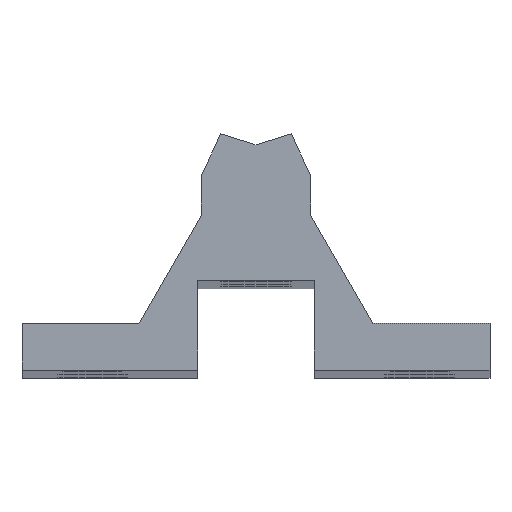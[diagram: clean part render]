
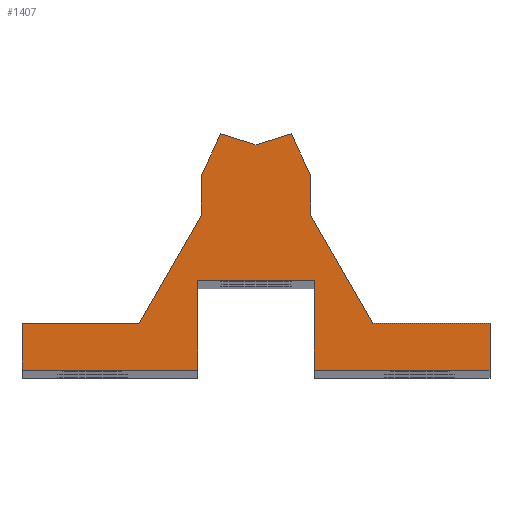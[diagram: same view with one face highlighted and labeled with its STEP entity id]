
A CAD part, top view. The second image highlights one B-rep face of the part: STEP entity #1407.
In plain terms, the highlighted planar face has unit normal (0, 0, 1).
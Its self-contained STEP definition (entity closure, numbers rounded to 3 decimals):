
#36 = CARTESIAN_POINT ( 'NONE',  ( -7.5, 8.5, 299.75 ) ) ;
#43 = EDGE_CURVE ( 'NONE', #462, #420, #1198, .T. ) ;
#69 = CARTESIAN_POINT ( 'NONE',  ( 7., 21.977, 299.75 ) ) ;
#84 = LINE ( 'NONE', #826, #1183 ) ;
#87 = FACE_OUTER_BOUND ( 'NONE', #582, .T. ) ;
#92 = VECTOR ( 'NONE', #1581, 1000. ) ;
#126 = VECTOR ( 'NONE', #1350, 1000. ) ;
#129 = ORIENTED_EDGE ( 'NONE', *, *, #262, .T. ) ;
#133 = VERTEX_POINT ( 'NONE', #539 ) ;
#151 = VECTOR ( 'NONE', #580, 1000. ) ;
#154 = LINE ( 'NONE', #727, #151 ) ;
#155 = VECTOR ( 'NONE', #1534, 1000. ) ;
#160 = CARTESIAN_POINT ( 'NONE',  ( 7.5, -3., 299.75 ) ) ;
#172 = EDGE_CURVE ( 'NONE', #462, #1536, #665, .T. ) ;
#180 = VECTOR ( 'NONE', #1587, 1000. ) ;
#218 = DIRECTION ( 'NONE',  ( 0., 0., 1. ) ) ;
#229 = CARTESIAN_POINT ( 'NONE',  ( -30., 3., 299.75 ) ) ;
#236 = VERTEX_POINT ( 'NONE', #1166 ) ;
#247 = EDGE_CURVE ( 'NONE', #420, #1771, #1759, .T. ) ;
#255 = DIRECTION ( 'NONE',  ( -0.423, -0.906, 0. ) ) ;
#262 = EDGE_CURVE ( 'NONE', #1771, #973, #1748, .T. ) ;
#263 = CARTESIAN_POINT ( 'NONE',  ( 30., 3., 299.75 ) ) ;
#318 = CARTESIAN_POINT ( 'NONE',  ( -30., 3., 299.75 ) ) ;
#324 = EDGE_CURVE ( 'NONE', #352, #236, #154, .T. ) ;
#334 = VECTOR ( 'NONE', #1803, 1000. ) ;
#349 = ORIENTED_EDGE ( 'NONE', *, *, #430, .T. ) ;
#352 = VERTEX_POINT ( 'NONE', #1799 ) ;
#356 = ORIENTED_EDGE ( 'NONE', *, *, #1766, .T. ) ;
#404 = VERTEX_POINT ( 'NONE', #479 ) ;
#415 = CARTESIAN_POINT ( 'NONE',  ( -7.5, 8.5, 299.75 ) ) ;
#420 = VERTEX_POINT ( 'NONE', #630 ) ;
#422 = LINE ( 'NONE', #415, #92 ) ;
#430 = EDGE_CURVE ( 'NONE', #1585, #1272, #1212, .T. ) ;
#442 = VERTEX_POINT ( 'NONE', #1048 ) ;
#462 = VERTEX_POINT ( 'NONE', #160 ) ;
#467 = LINE ( 'NONE', #69, #1060 ) ;
#479 = CARTESIAN_POINT ( 'NONE',  ( -4.511, 27.316, 299.75 ) ) ;
#483 = PLANE ( 'NONE',  #1089 ) ;
#497 = LINE ( 'NONE', #1785, #1455 ) ;
#501 = ORIENTED_EDGE ( 'NONE', *, *, #1653, .F. ) ;
#510 = CARTESIAN_POINT ( 'NONE',  ( -7., 21.977, 299.75 ) ) ;
#539 = CARTESIAN_POINT ( 'NONE',  ( 7., 16.856, 299.75 ) ) ;
#557 = EDGE_CURVE ( 'NONE', #1590, #404, #856, .T. ) ;
#580 = DIRECTION ( 'NONE',  ( -0.423, 0.906, 0. ) ) ;
#582 = EDGE_LOOP ( 'NONE', ( #1205, #731, #1136, #129, #651, #1450, #1552, #356, #1389, #926, #1006, #1822, #349, #1683, #799, #1165, #501 ) ) ;
#595 = VECTOR ( 'NONE', #1859, 1000. ) ;
#605 = VERTEX_POINT ( 'NONE', #36 ) ;
#612 = LINE ( 'NONE', #782, #126 ) ;
#621 = CARTESIAN_POINT ( 'NONE',  ( 0., 25.893, 299.75 ) ) ;
#630 = CARTESIAN_POINT ( 'NONE',  ( 30., -3., 299.75 ) ) ;
#634 = CARTESIAN_POINT ( 'NONE',  ( -7., 16.856, 299.75 ) ) ;
#639 = CARTESIAN_POINT ( 'NONE',  ( -30., -3., 299.75 ) ) ;
#643 = EDGE_CURVE ( 'NONE', #1306, #1585, #1504, .T. ) ;
#651 = ORIENTED_EDGE ( 'NONE', *, *, #1712, .T. ) ;
#665 = LINE ( 'NONE', #1123, #595 ) ;
#701 = DIRECTION ( 'NONE',  ( 0., 1., 0. ) ) ;
#727 = CARTESIAN_POINT ( 'NONE',  ( 4.5, 27.338, 299.75 ) ) ;
#731 = ORIENTED_EDGE ( 'NONE', *, *, #43, .T. ) ;
#756 = VECTOR ( 'NONE', #1092, 1000. ) ;
#782 = CARTESIAN_POINT ( 'NONE',  ( -7.5, 8.5, 299.75 ) ) ;
#786 = DIRECTION ( 'NONE',  ( 1., 0., 0. ) ) ;
#787 = VECTOR ( 'NONE', #1641, 1000. ) ;
#799 = ORIENTED_EDGE ( 'NONE', *, *, #1607, .T. ) ;
#826 = CARTESIAN_POINT ( 'NONE',  ( -7., 21.977, 299.75 ) ) ;
#851 = CARTESIAN_POINT ( 'NONE',  ( 30., 3., 299.75 ) ) ;
#856 = LINE ( 'NONE', #885, #1086 ) ;
#881 = VERTEX_POINT ( 'NONE', #1715 ) ;
#885 = CARTESIAN_POINT ( 'NONE',  ( 0., 25.893, 299.75 ) ) ;
#926 = ORIENTED_EDGE ( 'NONE', *, *, #1786, .T. ) ;
#930 = VECTOR ( 'NONE', #1238, 1000. ) ;
#973 = VERTEX_POINT ( 'NONE', #1811 ) ;
#1006 = ORIENTED_EDGE ( 'NONE', *, *, #1442, .T. ) ;
#1047 = DIRECTION ( 'NONE',  ( 0., 1., 0. ) ) ;
#1048 = CARTESIAN_POINT ( 'NONE',  ( -30., -3., 299.75 ) ) ;
#1057 = LINE ( 'NONE', #1618, #787 ) ;
#1060 = VECTOR ( 'NONE', #1047, 1000. ) ;
#1086 = VECTOR ( 'NONE', #1598, 1000. ) ;
#1089 = AXIS2_PLACEMENT_3D ( 'NONE', #1522, #218, #786 ) ;
#1092 = DIRECTION ( 'NONE',  ( 0., -1., 0. ) ) ;
#1106 = EDGE_CURVE ( 'NONE', #605, #881, #422, .T. ) ;
#1115 = VECTOR ( 'NONE', #1333, 1000. ) ;
#1123 = CARTESIAN_POINT ( 'NONE',  ( 7.5, 8.5, 299.75 ) ) ;
#1136 = ORIENTED_EDGE ( 'NONE', *, *, #247, .T. ) ;
#1156 = CARTESIAN_POINT ( 'NONE',  ( -30., 3., 299.75 ) ) ;
#1165 = ORIENTED_EDGE ( 'NONE', *, *, #1106, .F. ) ;
#1166 = CARTESIAN_POINT ( 'NONE',  ( 4.511, 27.316, 299.75 ) ) ;
#1183 = VECTOR ( 'NONE', #255, 1000. ) ;
#1198 = LINE ( 'NONE', #639, #930 ) ;
#1205 = ORIENTED_EDGE ( 'NONE', *, *, #172, .F. ) ;
#1212 = LINE ( 'NONE', #318, #1115 ) ;
#1238 = DIRECTION ( 'NONE',  ( 1., 0., 0. ) ) ;
#1257 = LINE ( 'NONE', #1674, #155 ) ;
#1272 = VERTEX_POINT ( 'NONE', #1462 ) ;
#1303 = EDGE_CURVE ( 'NONE', #1272, #442, #1780, .T. ) ;
#1306 = VERTEX_POINT ( 'NONE', #634 ) ;
#1333 = DIRECTION ( 'NONE',  ( -1., 0., 0. ) ) ;
#1350 = DIRECTION ( 'NONE',  ( -1., 0., 0. ) ) ;
#1357 = CARTESIAN_POINT ( 'NONE',  ( -15., 3., 299.75 ) ) ;
#1384 = VECTOR ( 'NONE', #701, 1000. ) ;
#1389 = ORIENTED_EDGE ( 'NONE', *, *, #557, .T. ) ;
#1407 = ADVANCED_FACE ( 'NONE', ( #87 ), #483, .T. ) ;
#1442 = EDGE_CURVE ( 'NONE', #1879, #1306, #1816, .T. ) ;
#1450 = ORIENTED_EDGE ( 'NONE', *, *, #1670, .T. ) ;
#1455 = VECTOR ( 'NONE', #1505, 1000. ) ;
#1462 = CARTESIAN_POINT ( 'NONE',  ( -30., 3., 299.75 ) ) ;
#1504 = LINE ( 'NONE', #1357, #334 ) ;
#1505 = DIRECTION ( 'NONE',  ( -0.5, 0.866, 0. ) ) ;
#1522 = CARTESIAN_POINT ( 'NONE',  ( 0., 0., 299.75 ) ) ;
#1534 = DIRECTION ( 'NONE',  ( -0.954, -0.301, 0. ) ) ;
#1536 = VERTEX_POINT ( 'NONE', #1842 ) ;
#1552 = ORIENTED_EDGE ( 'NONE', *, *, #324, .T. ) ;
#1581 = DIRECTION ( 'NONE',  ( 0., -1., 0. ) ) ;
#1585 = VERTEX_POINT ( 'NONE', #1834 ) ;
#1587 = DIRECTION ( 'NONE',  ( -1., 0., 0. ) ) ;
#1590 = VERTEX_POINT ( 'NONE', #621 ) ;
#1598 = DIRECTION ( 'NONE',  ( -0.954, 0.301, 0. ) ) ;
#1607 = EDGE_CURVE ( 'NONE', #442, #881, #1057, .T. ) ;
#1618 = CARTESIAN_POINT ( 'NONE',  ( -30., -3., 299.75 ) ) ;
#1637 = VECTOR ( 'NONE', #1645, 1000. ) ;
#1641 = DIRECTION ( 'NONE',  ( 1., 0., 0. ) ) ;
#1645 = DIRECTION ( 'NONE',  ( 0., -1., 0. ) ) ;
#1653 = EDGE_CURVE ( 'NONE', #1536, #605, #612, .T. ) ;
#1670 = EDGE_CURVE ( 'NONE', #133, #352, #467, .T. ) ;
#1674 = CARTESIAN_POINT ( 'NONE',  ( 4.582, 27.338, 299.75 ) ) ;
#1683 = ORIENTED_EDGE ( 'NONE', *, *, #1303, .T. ) ;
#1712 = EDGE_CURVE ( 'NONE', #973, #133, #497, .T. ) ;
#1715 = CARTESIAN_POINT ( 'NONE',  ( -7.5, -3., 299.75 ) ) ;
#1748 = LINE ( 'NONE', #1156, #180 ) ;
#1759 = LINE ( 'NONE', #851, #1384 ) ;
#1766 = EDGE_CURVE ( 'NONE', #236, #1590, #1257, .T. ) ;
#1771 = VERTEX_POINT ( 'NONE', #263 ) ;
#1780 = LINE ( 'NONE', #229, #1637 ) ;
#1785 = CARTESIAN_POINT ( 'NONE',  ( 15., 3., 299.75 ) ) ;
#1786 = EDGE_CURVE ( 'NONE', #404, #1879, #84, .T. ) ;
#1799 = CARTESIAN_POINT ( 'NONE',  ( 7., 21.977, 299.75 ) ) ;
#1803 = DIRECTION ( 'NONE',  ( -0.5, -0.866, 0. ) ) ;
#1811 = CARTESIAN_POINT ( 'NONE',  ( 15., 3., 299.75 ) ) ;
#1816 = LINE ( 'NONE', #510, #756 ) ;
#1822 = ORIENTED_EDGE ( 'NONE', *, *, #643, .T. ) ;
#1824 = CARTESIAN_POINT ( 'NONE',  ( -7., 21.977, 299.75 ) ) ;
#1834 = CARTESIAN_POINT ( 'NONE',  ( -15., 3., 299.75 ) ) ;
#1842 = CARTESIAN_POINT ( 'NONE',  ( 7.5, 8.5, 299.75 ) ) ;
#1859 = DIRECTION ( 'NONE',  ( 0., 1., 0. ) ) ;
#1879 = VERTEX_POINT ( 'NONE', #1824 ) ;
